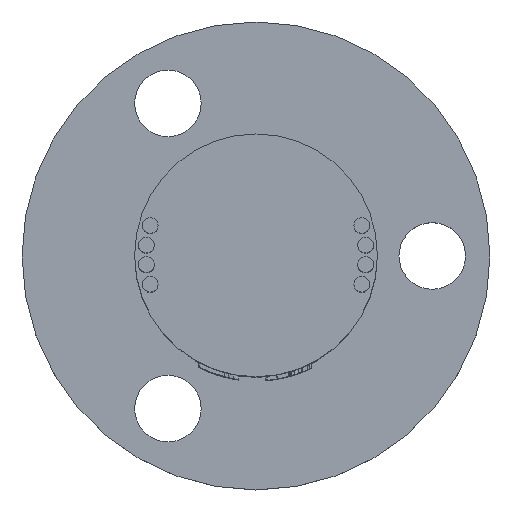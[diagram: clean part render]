
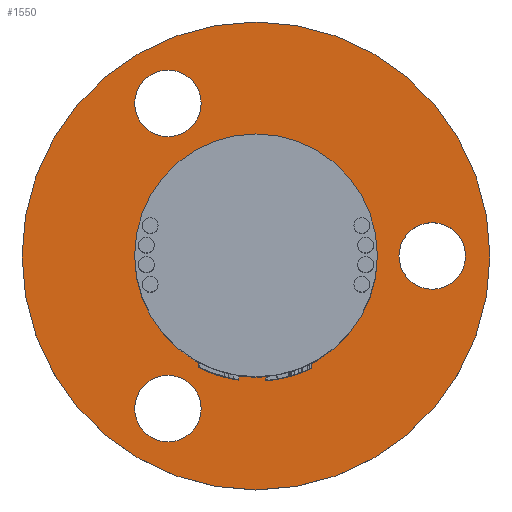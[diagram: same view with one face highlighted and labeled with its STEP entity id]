
A CAD part, top view. The second image highlights one B-rep face of the part: STEP entity #1550.
In plain terms, the highlighted planar face has unit normal (0, 0, 1).
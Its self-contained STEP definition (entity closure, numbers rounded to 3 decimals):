
#161=FACE_BOUND('',#2907,.T.);
#162=FACE_BOUND('',#2908,.T.);
#163=FACE_BOUND('',#2909,.T.);
#164=FACE_BOUND('',#2910,.T.);
#165=FACE_BOUND('',#2911,.T.);
#257=CIRCLE('',#10631,6.2);
#276=CIRCLE('',#10662,11.95);
#277=CIRCLE('',#10664,1.7);
#278=CIRCLE('',#10666,1.7);
#279=CIRCLE('',#10668,1.7);
#1550=ADVANCED_FACE('',(#161,#162,#163,#164,#165),#1871,.T.);
#1871=PLANE('',#10670);
#2907=EDGE_LOOP('',(#5277));
#2908=EDGE_LOOP('',(#5278));
#2909=EDGE_LOOP('',(#5279));
#2910=EDGE_LOOP('',(#5280));
#2911=EDGE_LOOP('',(#5281));
#5277=ORIENTED_EDGE('',*,*,#8488,.F.);
#5278=ORIENTED_EDGE('',*,*,#8510,.F.);
#5279=ORIENTED_EDGE('',*,*,#8509,.F.);
#5280=ORIENTED_EDGE('',*,*,#8508,.F.);
#5281=ORIENTED_EDGE('',*,*,#8507,.F.);
#7046=VERTEX_POINT('',#21021);
#7065=VERTEX_POINT('',#21071);
#7066=VERTEX_POINT('',#21074);
#7067=VERTEX_POINT('',#21077);
#7068=VERTEX_POINT('',#21080);
#8488=EDGE_CURVE('',#7046,#7046,#257,.T.);
#8507=EDGE_CURVE('',#7065,#7065,#276,.T.);
#8508=EDGE_CURVE('',#7066,#7066,#277,.T.);
#8509=EDGE_CURVE('',#7067,#7067,#278,.T.);
#8510=EDGE_CURVE('',#7068,#7068,#279,.T.);
#10631=AXIS2_PLACEMENT_3D('',#21020,#11670,#11671);
#10662=AXIS2_PLACEMENT_3D('',#21070,#11732,#11733);
#10664=AXIS2_PLACEMENT_3D('',#21073,#11736,#11737);
#10666=AXIS2_PLACEMENT_3D('',#21076,#11740,#11741);
#10668=AXIS2_PLACEMENT_3D('',#21079,#11744,#11745);
#10670=AXIS2_PLACEMENT_3D('',#21082,#11748,#11749);
#11670=DIRECTION('',(0.,0.,1.));
#11671=DIRECTION('',(1.,0.,0.));
#11732=DIRECTION('',(0.,0.,-1.));
#11733=DIRECTION('',(1.,0.,0.));
#11736=DIRECTION('',(0.,0.,1.));
#11737=DIRECTION('',(1.,0.,0.));
#11740=DIRECTION('',(0.,0.,1.));
#11741=DIRECTION('',(1.,0.,0.));
#11744=DIRECTION('',(0.,0.,1.));
#11745=DIRECTION('',(1.,0.,0.));
#11748=DIRECTION('',(0.,0.,1.));
#11749=DIRECTION('',(1.,0.,0.));
#21020=CARTESIAN_POINT('',(0.,0.,5.5));
#21021=CARTESIAN_POINT('',(6.2,0.,5.5));
#21070=CARTESIAN_POINT('',(0.,0.,5.5));
#21071=CARTESIAN_POINT('',(11.95,0.,5.5));
#21073=CARTESIAN_POINT('',(-4.5,-7.794,5.5));
#21074=CARTESIAN_POINT('',(-2.8,-7.794,5.5));
#21076=CARTESIAN_POINT('',(-4.5,7.794,5.5));
#21077=CARTESIAN_POINT('',(-2.8,7.794,5.5));
#21079=CARTESIAN_POINT('',(9.,0.,5.5));
#21080=CARTESIAN_POINT('',(10.7,0.,5.5));
#21082=CARTESIAN_POINT('',(0.,0.,5.5));
